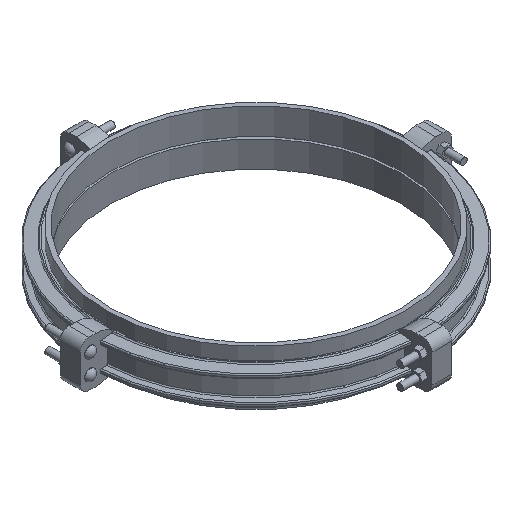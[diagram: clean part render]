
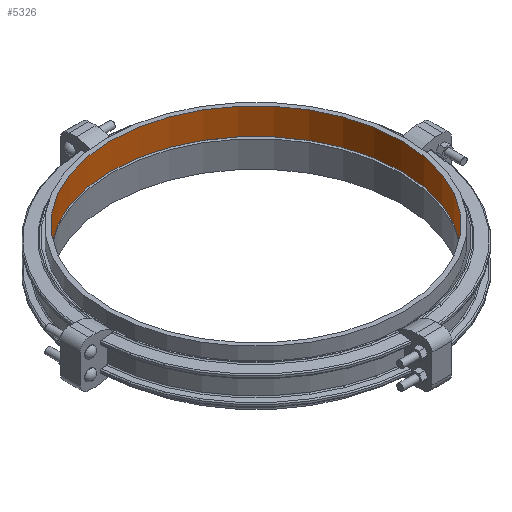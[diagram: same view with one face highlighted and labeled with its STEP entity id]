
A CAD part, isometric view. The second image highlights one B-rep face of the part: STEP entity #5326.
In plain terms, the highlighted cylindrical face has radius 838.2 mm (diameter 1676.4 mm), a full revolution.
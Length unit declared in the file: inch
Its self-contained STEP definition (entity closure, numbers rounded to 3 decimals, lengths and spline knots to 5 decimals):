
#270=CYLINDRICAL_SURFACE('',#5937,33.);
#588=FACE_OUTER_BOUND('',#906,.T.);
#906=EDGE_LOOP('',(#4630,#4631,#4632,#4633,#4634,#4635));
#1291=LINE('',#10065,#1674);
#1674=VECTOR('',#7388,33.);
#1927=CIRCLE('',#5935,33.);
#1928=CIRCLE('',#5936,33.);
#1929=CIRCLE('',#5938,33.);
#1930=CIRCLE('',#5939,33.);
#2431=VERTEX_POINT('',#10059);
#2432=VERTEX_POINT('',#10060);
#2433=VERTEX_POINT('',#10064);
#2434=VERTEX_POINT('',#10066);
#3165=EDGE_CURVE('',#2431,#2432,#1927,.T.);
#3166=EDGE_CURVE('',#2432,#2431,#1928,.T.);
#3167=EDGE_CURVE('',#2432,#2433,#1291,.T.);
#3168=EDGE_CURVE('',#2434,#2433,#1929,.T.);
#3169=EDGE_CURVE('',#2433,#2434,#1930,.T.);
#4630=ORIENTED_EDGE('',*,*,#3165,.T.);
#4631=ORIENTED_EDGE('',*,*,#3167,.T.);
#4632=ORIENTED_EDGE('',*,*,#3168,.F.);
#4633=ORIENTED_EDGE('',*,*,#3169,.F.);
#4634=ORIENTED_EDGE('',*,*,#3167,.F.);
#4635=ORIENTED_EDGE('',*,*,#3166,.T.);
#5326=ADVANCED_FACE('',(#588),#270,.F.);
#5935=AXIS2_PLACEMENT_3D('',#10061,#7382,#7383);
#5936=AXIS2_PLACEMENT_3D('',#10062,#7384,#7385);
#5937=AXIS2_PLACEMENT_3D('',#10063,#7386,#7387);
#5938=AXIS2_PLACEMENT_3D('',#10067,#7389,#7390);
#5939=AXIS2_PLACEMENT_3D('',#10068,#7391,#7392);
#7382=DIRECTION('center_axis',(0.,0.,-1.));
#7383=DIRECTION('ref_axis',(1.,0.,0.));
#7384=DIRECTION('center_axis',(0.,0.,-1.));
#7385=DIRECTION('ref_axis',(1.,0.,0.));
#7386=DIRECTION('center_axis',(0.,0.,-1.));
#7387=DIRECTION('ref_axis',(0.,1.,0.));
#7388=DIRECTION('',(0.,0.,1.));
#7389=DIRECTION('center_axis',(0.,0.,-1.));
#7390=DIRECTION('ref_axis',(1.,0.,0.));
#7391=DIRECTION('center_axis',(0.,0.,-1.));
#7392=DIRECTION('ref_axis',(1.,0.,0.));
#10059=CARTESIAN_POINT('',(0.,33.,0.));
#10060=CARTESIAN_POINT('',(0.,-33.,0.));
#10061=CARTESIAN_POINT('Origin',(0.,0.,0.));
#10062=CARTESIAN_POINT('Origin',(0.,0.,0.));
#10063=CARTESIAN_POINT('Origin',(0.,0.,3.));
#10064=CARTESIAN_POINT('',(0.,-33.,6.));
#10065=CARTESIAN_POINT('',(0.,-33.,3.));
#10066=CARTESIAN_POINT('',(0.,33.,6.));
#10067=CARTESIAN_POINT('Origin',(0.,0.,6.));
#10068=CARTESIAN_POINT('Origin',(0.,0.,6.));
